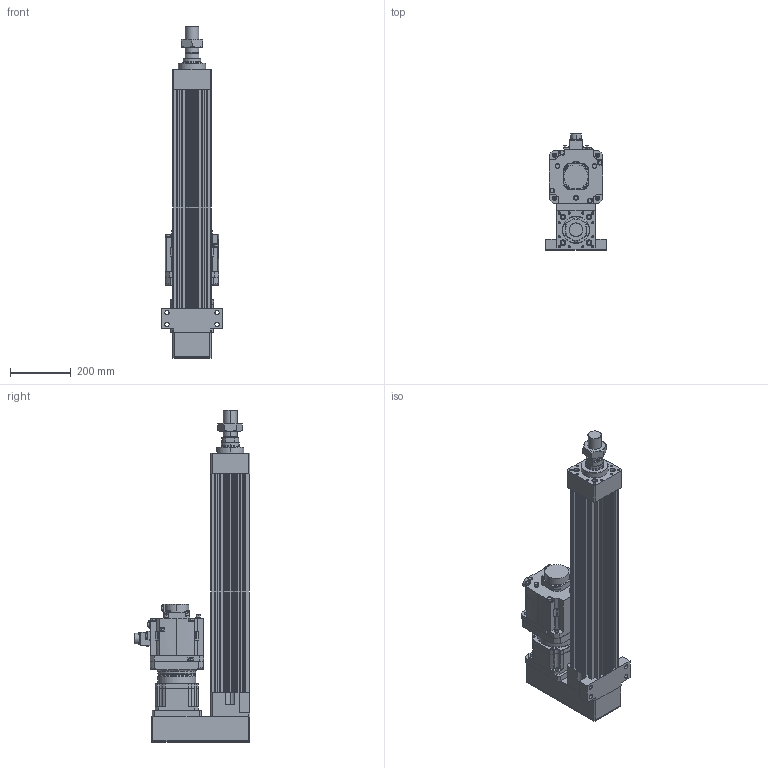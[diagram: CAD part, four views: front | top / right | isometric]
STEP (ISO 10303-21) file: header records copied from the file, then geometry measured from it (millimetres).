
FILE_DESCRIPTION (( 'STEP AP203' ), '1' );
FILE_NAME ('HES130NS(FS)(HS)-P500-W020G00-M-FFC.STEP', '2026-06-10T06:12:55', ( 'tms' ), ( '' ), 'SwSTEP 2.0', 'SolidWorks 2013', '' );
FILE_SCHEMA (( 'CONFIG_CONTROL_DESIGN' ));
Length unit declared in the file: millimetre
Products named in the file (9): AB1423; HES130-P-G142; HES130-M-ROD-500; AB1422; HG-SR202B; HES130-FFC-500; AB1421; M45X1.5P; HES130NS(FS)(HS)-P500-W020G00-M-FFC
Assembly tree (8 placements, depth 2):
  HES130NS(FS)(HS)-P500-W020G00-M-FFC
    HES130-FFC-500
    HES130-M-ROD-500
    M45X1.5P
    HES130-P-G142
    AB1421
    AB1422
    AB1423
    HG-SR202B
Bounding box: 200 x 381.85 x 1094 mm (x, y, z)
Volume: 15003365 mm3; surface area: 1802846.5 mm2
Topology: 5 solids, 19 shells, 1533 faces, 3980 edges, 2570 vertices
Faces by surface type: cylinder 698, plane 585, cone 168, bspline 76, torus 6
Entity records: 55808 total; most frequent: CARTESIAN_POINT 16861, DIRECTION 8168, ORIENTED_EDGE 7838, EDGE_CURVE 3941, AXIS2_PLACEMENT_3D 3094, VERTEX_POINT 2570, LINE 1980, VECTOR 1980
